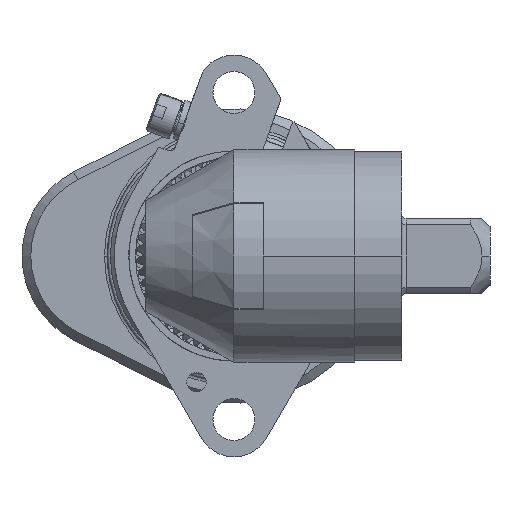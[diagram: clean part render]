
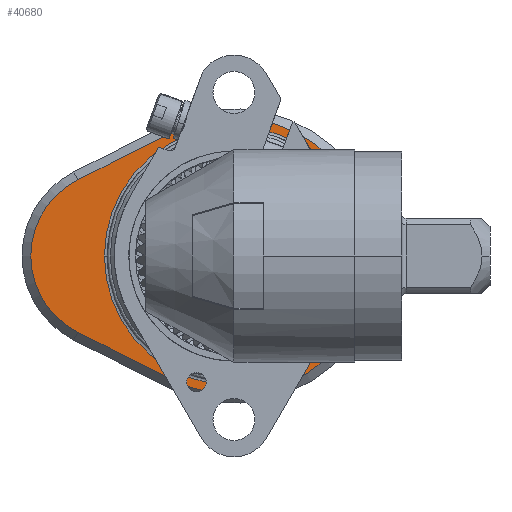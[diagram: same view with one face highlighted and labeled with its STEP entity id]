
A CAD part, left-side view. The second image highlights one B-rep face of the part: STEP entity #40680.
In plain terms, the highlighted planar face has unit normal (-1, 0, 0).
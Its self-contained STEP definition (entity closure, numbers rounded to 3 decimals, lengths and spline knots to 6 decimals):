
#14479=CARTESIAN_POINT('',(-0.037,0.,0.));
#14480=DIRECTION('',(1.,0.,0.));
#14481=DIRECTION('',(0.,1.,0.));
#14482=AXIS2_PLACEMENT_3D('',#14479,#14480,#14481);
#14484=CARTESIAN_POINT('',(-0.037,0.,0.));
#14485=DIRECTION('',(1.,0.,0.));
#14486=DIRECTION('',(0.,-1.,0.));
#14487=AXIS2_PLACEMENT_3D('',#14484,#14485,#14486);
#14489=CARTESIAN_POINT('',(-0.037,0.,0.));
#14490=DIRECTION('',(-1.,0.,0.));
#14491=DIRECTION('',(0.,-0.45,0.893));
#14492=AXIS2_PLACEMENT_3D('',#14489,#14490,#14491);
#14494=CARTESIAN_POINT('',(-0.037,0.,0.));
#14495=DIRECTION('',(-1.,0.,0.));
#14496=DIRECTION('',(0.,-1.,0.));
#14497=AXIS2_PLACEMENT_3D('',#14494,#14495,#14496);
#14499=CARTESIAN_POINT('',(-0.037,0.,0.));
#14500=DIRECTION('',(-1.,0.,0.));
#14501=DIRECTION('',(0.,0.45,-0.893));
#14502=AXIS2_PLACEMENT_3D('',#14499,#14500,#14501);
#14504=CARTESIAN_POINT('',(-0.037,0.02,0.));
#14505=DIRECTION('',(-1.,0.,0.));
#14506=DIRECTION('',(0.,1.,0.));
#14507=AXIS2_PLACEMENT_3D('',#14504,#14505,#14506);
#14509=CARTESIAN_POINT('',(-0.037,0.02,0.));
#14510=DIRECTION('',(-1.,0.,0.));
#14511=DIRECTION('',(0.,0.45,0.893));
#14512=AXIS2_PLACEMENT_3D('',#14509,#14510,#14511);
#14522=DIRECTION('',(0.,-0.893,0.45));
#14523=VECTOR('',#14522,0.017861);
#14524=CARTESIAN_POINT('',(-0.037,0.026525,0.012949));
#14525=LINE('',#14524,#14523);
#14556=DIRECTION('',(0.,0.893,0.45));
#14557=VECTOR('',#14556,0.017861);
#14558=CARTESIAN_POINT('',(-0.037,0.010575,-0.020986));
#14559=LINE('',#14558,#14557);
#32108=CARTESIAN_POINT('',(-0.037,0.010575,-0.020986));
#32109=CARTESIAN_POINT('',(-0.037,-0.0235,0.));
#32110=VERTEX_POINT('',#32108);
#32111=VERTEX_POINT('',#32109);
#32112=CARTESIAN_POINT('',(-0.037,-0.010575,0.020986));
#32113=VERTEX_POINT('',#32112);
#32114=CARTESIAN_POINT('',(-0.037,0.010575,0.020986));
#32115=VERTEX_POINT('',#32114);
#32116=CARTESIAN_POINT('',(-0.037,0.026525,-0.012949));
#32117=VERTEX_POINT('',#32116);
#32118=CARTESIAN_POINT('',(-0.037,0.0345,0.));
#32119=VERTEX_POINT('',#32118);
#32120=CARTESIAN_POINT('',(-0.037,0.026525,0.012949));
#32121=VERTEX_POINT('',#32120);
#32122=CARTESIAN_POINT('',(-0.037,-0.022,0.));
#32123=CARTESIAN_POINT('',(-0.037,0.022,0.));
#32124=VERTEX_POINT('',#32122);
#32125=VERTEX_POINT('',#32123);
#40655=CARTESIAN_POINT('',(-0.037,0.02,0.));
#40656=DIRECTION('',(1.,0.,0.));
#40657=DIRECTION('',(0.,-1.,0.));
#40658=AXIS2_PLACEMENT_3D('',#40655,#40656,#40657);
#40659=PLANE('',#40658);
#40661=ORIENTED_EDGE('',*,*,#40660,.T.);
#40663=ORIENTED_EDGE('',*,*,#40662,.F.);
#40665=ORIENTED_EDGE('',*,*,#40664,.F.);
#40667=ORIENTED_EDGE('',*,*,#40666,.F.);
#40669=ORIENTED_EDGE('',*,*,#40668,.T.);
#40671=ORIENTED_EDGE('',*,*,#40670,.F.);
#40673=ORIENTED_EDGE('',*,*,#40672,.F.);
#40674=EDGE_LOOP('',(#40661,#40663,#40665,#40667,#40669,#40671,#40673));
#40675=FACE_OUTER_BOUND('',#40674,.F.);
#40676=ORIENTED_EDGE('',*,*,#40634,.F.);
#40677=ORIENTED_EDGE('',*,*,#40648,.F.);
#40678=EDGE_LOOP('',(#40676,#40677));
#40679=FACE_BOUND('',#40678,.F.);
#40680=ADVANCED_FACE('',(#40675,#40679),#40659,.F.);
#14483=CIRCLE('',#14482,0.022);
#14488=CIRCLE('',#14487,0.022);
#14493=CIRCLE('',#14492,0.0235);
#14498=CIRCLE('',#14497,0.0235);
#14503=CIRCLE('',#14502,0.0235);
#14508=CIRCLE('',#14507,0.0145);
#14513=CIRCLE('',#14512,0.0145);
#40634=EDGE_CURVE('',#32125,#32124,#14483,.T.);
#40648=EDGE_CURVE('',#32124,#32125,#14488,.T.);
#40660=EDGE_CURVE('',#32121,#32115,#14525,.T.);
#40662=EDGE_CURVE('',#32113,#32115,#14493,.T.);
#40664=EDGE_CURVE('',#32111,#32113,#14498,.T.);
#40666=EDGE_CURVE('',#32110,#32111,#14503,.T.);
#40668=EDGE_CURVE('',#32110,#32117,#14559,.T.);
#40670=EDGE_CURVE('',#32119,#32117,#14508,.T.);
#40672=EDGE_CURVE('',#32121,#32119,#14513,.T.);
